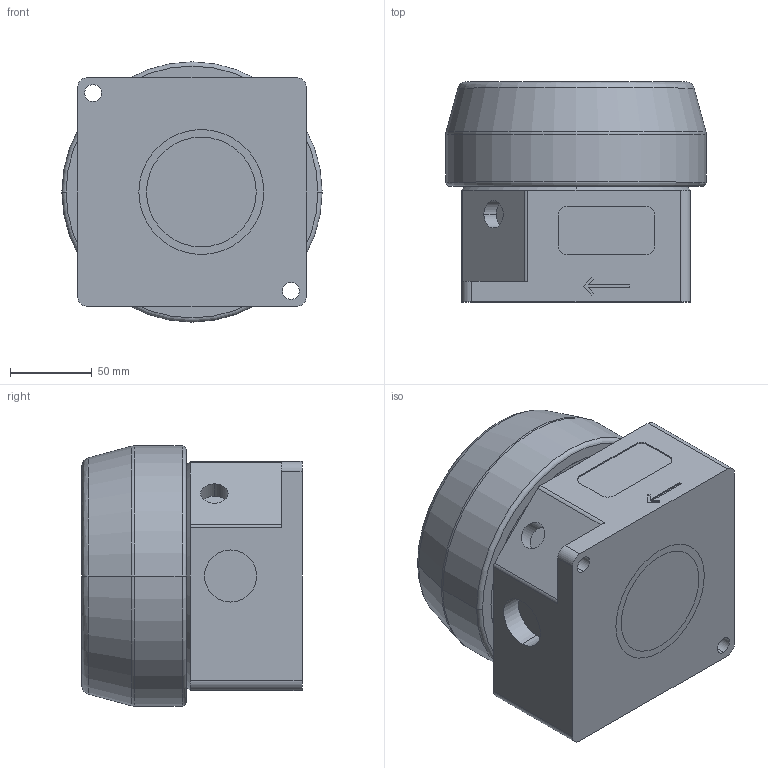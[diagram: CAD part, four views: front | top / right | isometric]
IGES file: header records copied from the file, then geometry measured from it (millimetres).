
Start section: SolidWorks IGES file using analytic representation for surfaces
Global section: file name: S:\Engineer\SW Files\R and D\Andy\RBA12 cad model\RFA12 cad model\RFA 12 .IGS; native system: SolidWorks 2020; preprocessor: SolidWorks 2020; author: Andy.Hutchinson; date: 210820.122803; units: inch
Bounding box: 158.75 x 134.24 x 158.75 mm (x, y, z)
Volume: 2446634.5 mm3; surface area: 116372.2 mm2
Topology: 1 solids, 1 shells, 94 faces, 230 edges, 150 vertices
Faces by surface type: plane 52, revolution 42
